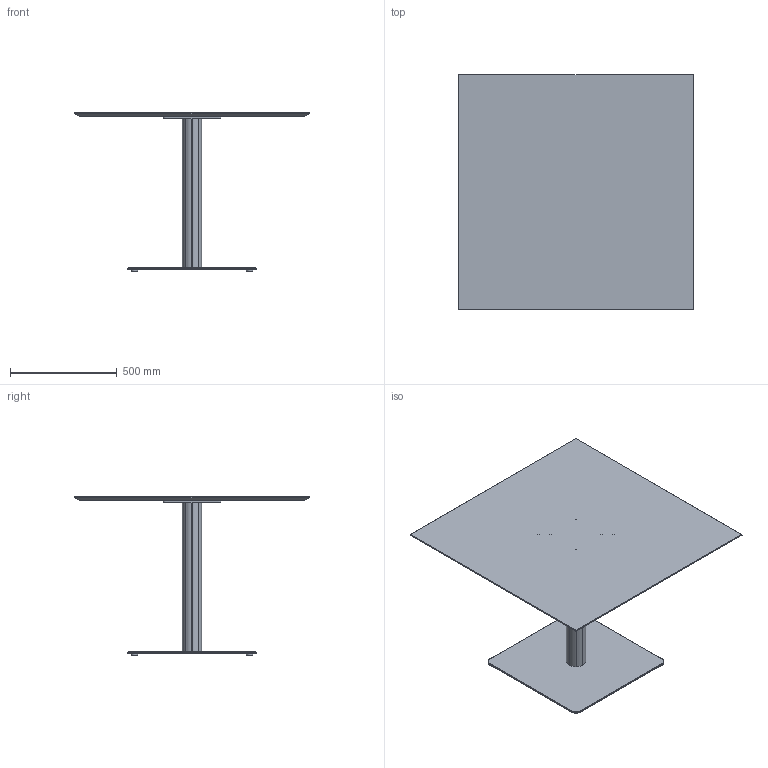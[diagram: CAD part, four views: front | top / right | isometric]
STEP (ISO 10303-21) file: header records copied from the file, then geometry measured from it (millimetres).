
FILE_DESCRIPTION( ('This file contains a STEP AP42 implementation' ,'as created by ZW3D STEP Interface translator.') ,'2;1' );
FILE_NAME( 'Fut - B_Carré - F4 - M5 - 1100 x 1100 x 750.stp' ,'24 911.164435', (''), ('ZWCAD Software Co.'), 'Version 1.0', 'ZW3D to STEP translator', '' );
FILE_SCHEMA(('AUTOMOTIVE_DESIGN { 1 0 10303 214 1 1 1 1 }'));
Length unit declared in the file: millimetre
Products named in the file (15): 0; PIED BISTROT PARAMETRIQUE_; CROIX ACIER 370 V.02_; CRX-X370-02_; SOCLE ACIER L 600x600 V.02_; SCL-R600-02_; PLA-R30A-01_; PLA-R30A-01; COLONNE ACIER Ø48.5 V.02_; TUB-D048-02_; PLA-R48A-01_; COLONNE BOIS PARAMETIQUE_; WUERTH 0276063020 Euro-screw 6.3x2 Verzinkt_; PLATEAU BISTROT PARAMETRIQUE_; insert_m6_13_
Assembly tree (23 placements, depth 3):
  0
  PIED BISTROT PARAMETRIQUE_
    CROIX ACIER 370 V.02_
      CRX-X370-02_
    SOCLE ACIER L 600x600 V.02_
      SCL-R600-02_
      PLA-R30A-01_
      PLA-R30A-01  x3
    COLONNE ACIER Ø48.5 V.02_
      TUB-D048-02_
      PLA-R48A-01_  x2
    COLONNE BOIS PARAMETIQUE_
    WUERTH 0276063020 Euro-screw 6.3x2 Verzinkt_
    PLATEAU BISTROT PARAMETRIQUE_
      insert_m6_13_  x8
Bounding box: 1100 x 1100 x 744 mm (x, y, z)
Volume: 29736668.9 mm3; surface area: 3982725.7 mm2
Topology: 23 solids, 23 shells, 557 faces, 1354 edges, 850 vertices
Faces by surface type: plane 282, bspline 125, cylinder 104, cone 45, torus 1
Full cylindrical faces by diameter (mm): 4.88 x1, 6 x8, 6.3 x1, 8 x45, 12 x2, 14 x2, 30 x4, 44.5 x3, 48.5 x1
Entity records: 13027 total; most frequent: CARTESIAN_POINT 3533, ORIENTED_EDGE 1722, DIRECTION 1612, EDGE_CURVE 861, VECTOR 554, LINE 554, VERTEX_POINT 552, AXIS2_PLACEMENT_3D 529
